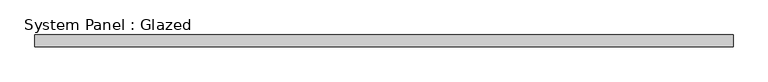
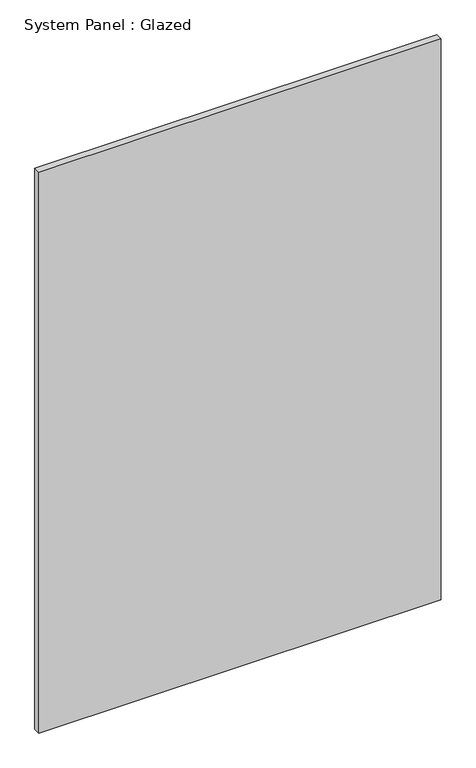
"""IFC4 building model written with IfcOpenShell, lengths in millimetres: plate geometry, System Panel : Glazed."""

from ifc_helpers import new_model, si_unit, origin, origin_with_axes, place, context, project, spatial, polyline, outline, extrude, source, transform, mapped, element, save


def system_panel_glazed_c10e7662(model_context):
    return source(origin(), model_context, "Body", "SweptSolid", [
        extrude(outline(polyline([(727.4093138, 24.5), (-727.4093138, 24.5), (-727.4093138, 49.5), (727.4093138, 49.5), (727.4093138, 24.5)])), origin_with_axes(), (0.0, 0.0, 1.0), 2145.0),
    ])


if __name__ == "__main__":
    model = new_model("IFC4")
    model_context = context("Model", 3, world=origin())
    ifc_project = project(units=[si_unit("LENGTHUNIT", "METRE", prefix="MILLI")], contexts=[model_context])
    site = spatial("IfcSite", under=ifc_project)
    building = spatial("IfcBuilding", under=site)
    placement = place(None, origin())
    system_panel_glazed_shape = system_panel_glazed_c10e7662(model_context)
    element("IfcPlate", 1, ObjectType="System Panel : Glazed", at=placement, inside=building, context=model_context, shape_type="MappedRepresentation", body=[
        mapped(system_panel_glazed_shape, transform((0.0, 0.0, 0.0), x_axis=(1.0, 0.0, 0.0), y_axis=(0.0, 1.0, 0.0), z_axis=(0.0, 0.0, 1.0))),
    ])
    save(model, "model.ifc")
